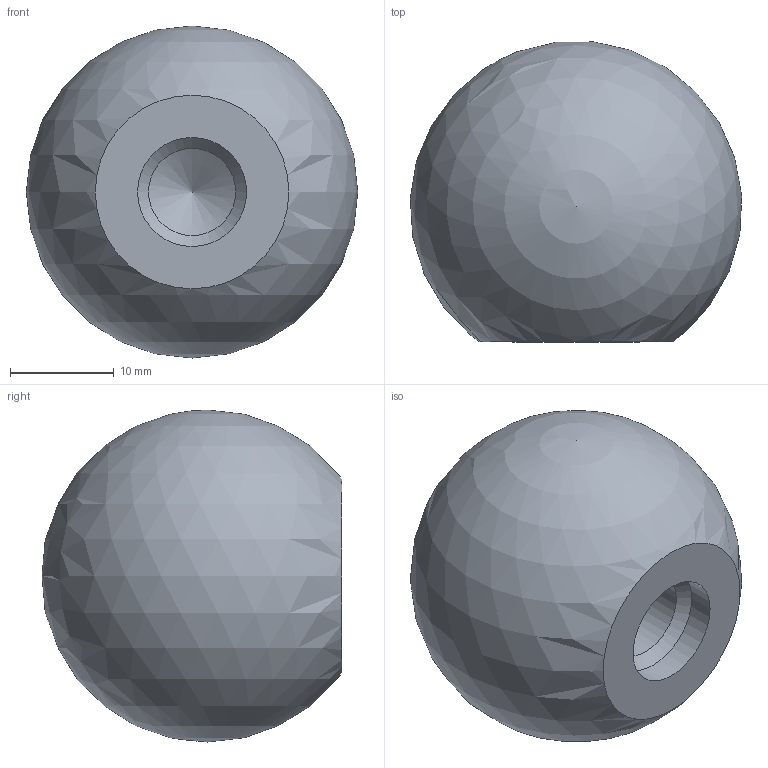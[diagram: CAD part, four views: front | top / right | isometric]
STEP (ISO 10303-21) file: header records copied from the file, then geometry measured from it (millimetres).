
FILE_DESCRIPTION (( 'STEP AP214' ), '1' );
FILE_NAME ('319-KT-32-M10-C.step', '2019-04-24T08:50:04', ( 'user' ), ( '' ), 'SwSTEP 2.0', 'SolidWorks 2019', '' );
FILE_SCHEMA (( 'AUTOMOTIVE_DESIGN' ));
Length unit declared in the file: millimetre
Products named in the file (1): 319-KT-32-M10-C
Bounding box: 31.94 x 28.91 x 32 mm (x, y, z)
Volume: 15595.3 mm3; surface area: 3674.6 mm2
Topology: 1 solids, 1 shells, 6 faces, 15 edges, 10 vertices
Faces by surface type: cone 2, cylinder 2, plane 1, sphere 1
Full cylindrical faces by diameter (mm): 8.4 x1, 10.5 x1
Entity records: 159 total; most frequent: DIRECTION 24, CARTESIAN_POINT 17, AXIS2_PLACEMENT_3D 12, ORIENTED_EDGE 10, EDGE_LOOP 10, FACE_OUTER_BOUND 8, ADVANCED_FACE 6, EDGE_CURVE 5
